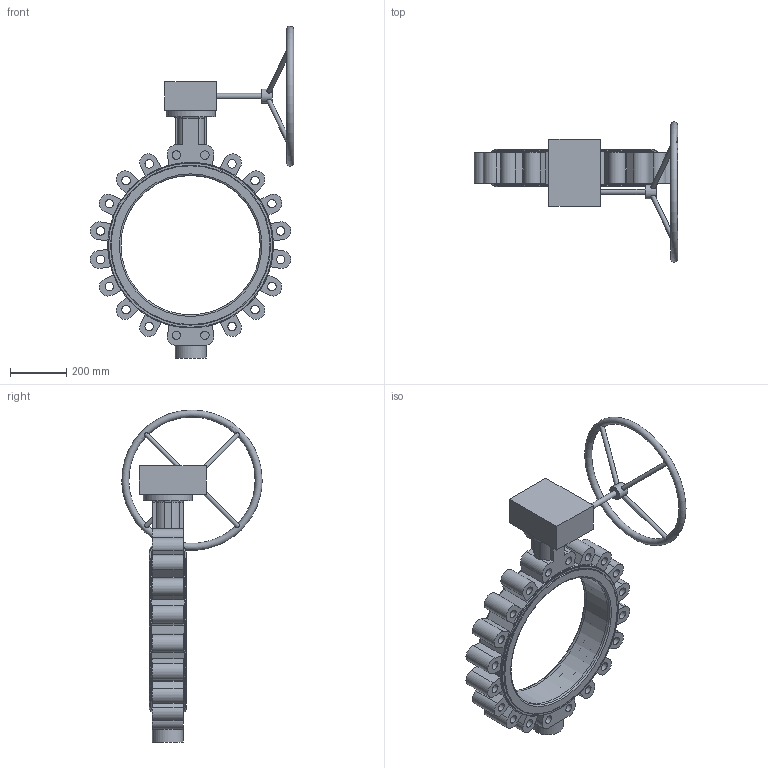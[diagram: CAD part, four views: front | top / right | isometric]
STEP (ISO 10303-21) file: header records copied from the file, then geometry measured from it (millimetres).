
FILE_DESCRIPTION (( 'STEP AP203' ), '1' );
FILE_NAME ('2502 LT型中线衬胶带销 手动头蝶阀 DN500 PN16 CD0309127.STEP', '2026-04-01T02:59:34', ( '' ), ( '' ), 'SwSTEP 2.0', 'SolidWorks 2018', '' );
FILE_SCHEMA (( 'CONFIG_CONTROL_DESIGN' ));
Length unit declared in the file: millimetre
Products named in the file (4): 00. G200 手动头装配图 YN 简化; GALA-D500-04AC-01; GALA-D500-01LC16-00; 2502 LT型中线衬胶带销 手动头蝶阀 DN500 PN16 CD0309127
Assembly tree (3 placements, depth 2):
  2502 LT型中线衬胶带销 手动头蝶阀 DN500 PN16 CD0309127
    GALA-D500-04AC-01
    GALA-D500-01LC16-00
    00. G200 手动头装配图 YN 简化
Bounding box: 724.93 x 499.79 x 1182.95 mm (x, y, z)
Volume: 24945534.5 mm3; surface area: 2304939.6 mm2
Topology: 3 solids, 4 shells, 223 faces, 538 edges, 353 vertices
Faces by surface type: plane 118, cylinder 83, torus 14, cone 8
Full cylindrical faces by diameter (mm): 16 x4, 18 x4, 20 x1, 30 x24, 40.381 x1, 50 x1, 110 x1, 175 x1, 496.523 x1, 503 x1, 505.187 x1, 570 x4, 585 x2, 590 x1
Entity records: 7365 total; most frequent: CARTESIAN_POINT 1966, DIRECTION 1070, ORIENTED_EDGE 886, EDGE_CURVE 443, AXIS2_PLACEMENT_3D 424, EDGE_LOOP 370, VERTEX_POINT 325, FACE_OUTER_BOUND 276
